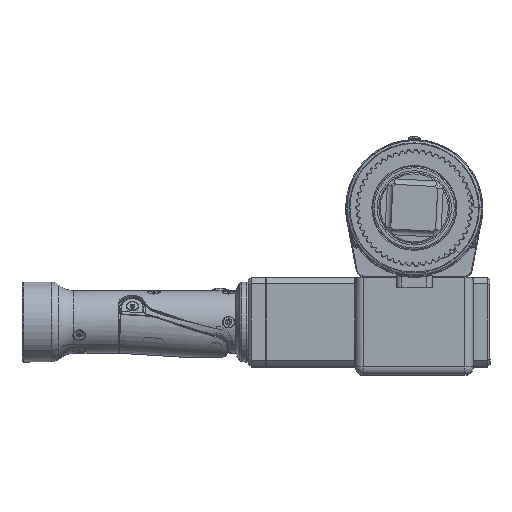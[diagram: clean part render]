
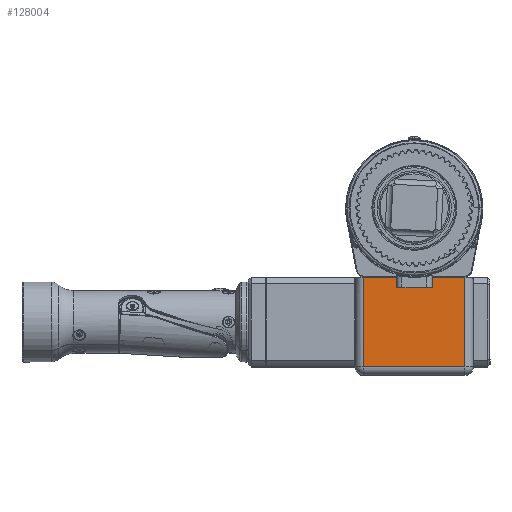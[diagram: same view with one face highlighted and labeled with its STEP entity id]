
A CAD part, top view. The second image highlights one B-rep face of the part: STEP entity #128004.
In plain terms, the highlighted planar face has unit normal (0, 0, 1).
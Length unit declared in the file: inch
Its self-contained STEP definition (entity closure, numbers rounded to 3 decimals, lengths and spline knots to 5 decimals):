
#1763 = CARTESIAN_POINT ( 'NONE',  ( -0.365, -1.77, 0.0005 ) ) ;
#5724 = EDGE_CURVE ( 'NONE', #33020, #95636, #72684, .T. ) ;
#6225 = AXIS2_PLACEMENT_3D ( 'NONE', #12774, #36941, #49779 ) ;
#6653 = DIRECTION ( 'NONE',  ( 0., -1., 0. ) ) ;
#9231 = EDGE_CURVE ( 'NONE', #60356, #130247, #146803, .T. ) ;
#9235 = VECTOR ( 'NONE', #138914, 39.37008 ) ;
#12774 = CARTESIAN_POINT ( 'NONE',  ( -1.3125, -1.53, 0.0005 ) ) ;
#13848 = DIRECTION ( 'NONE',  ( 0., 1., 0. ) ) ;
#14013 = EDGE_CURVE ( 'NONE', #30673, #130247, #40173, .T. ) ;
#14484 = VECTOR ( 'NONE', #107883, 39.37008 ) ;
#22359 = VECTOR ( 'NONE', #152930, 39.37008 ) ;
#23097 = EDGE_CURVE ( 'NONE', #85609, #95636, #127616, .T. ) ;
#25335 = ORIENTED_EDGE ( 'NONE', *, *, #77919, .T. ) ;
#27676 = EDGE_CURVE ( 'NONE', #156053, #150250, #55321, .T. ) ;
#27877 = AXIS2_PLACEMENT_3D ( 'NONE', #69137, #69939, #131775 ) ;
#30673 = VERTEX_POINT ( 'NONE', #1763 ) ;
#30779 = CARTESIAN_POINT ( 'NONE',  ( 1.125, -1.53, 0.0005 ) ) ;
#33020 = VERTEX_POINT ( 'NONE', #40202 ) ;
#35734 = CARTESIAN_POINT ( 'NONE',  ( 0.365, -1.77, 0.0005 ) ) ;
#36054 = CARTESIAN_POINT ( 'NONE',  ( 0.365, -1.76, 0.0005 ) ) ;
#36941 = DIRECTION ( 'NONE',  ( 0., 0., -1. ) ) ;
#38506 = EDGE_CURVE ( 'NONE', #60356, #85609, #103856, .T. ) ;
#40173 = LINE ( 'NONE', #123809, #103889 ) ;
#40202 = CARTESIAN_POINT ( 'NONE',  ( 1.125, -3.53, 0.0005 ) ) ;
#41195 = EDGE_CURVE ( 'NONE', #30673, #122259, #130635, .T. ) ;
#49779 = DIRECTION ( 'NONE',  ( -1., 0., 0. ) ) ;
#53612 = CARTESIAN_POINT ( 'NONE',  ( -1.125, -3.53, 0.0005 ) ) ;
#55321 = LINE ( 'NONE', #89898, #9235 ) ;
#55955 = EDGE_CURVE ( 'NONE', #114723, #122259, #65498, .T. ) ;
#58977 = CARTESIAN_POINT ( 'NONE',  ( 1.125, -3.53, 0.0005 ) ) ;
#60356 = VERTEX_POINT ( 'NONE', #150532 ) ;
#62812 = VECTOR ( 'NONE', #79887, 39.37008 ) ;
#65003 = CARTESIAN_POINT ( 'NONE',  ( 1.3125, -1.53, 0.0005 ) ) ;
#65498 = LINE ( 'NONE', #92734, #155373 ) ;
#66188 = CARTESIAN_POINT ( 'NONE',  ( 0.375, -1.53, 0.0005 ) ) ;
#69137 = CARTESIAN_POINT ( 'NONE',  ( -0.365, -1.76, 0.0005 ) ) ;
#69939 = DIRECTION ( 'NONE',  ( 0., 0., -1. ) ) ;
#70182 = CARTESIAN_POINT ( 'NONE',  ( 1.3125, -1.53, 0.0005 ) ) ;
#72684 = LINE ( 'NONE', #99885, #114807 ) ;
#74002 = ORIENTED_EDGE ( 'NONE', *, *, #14013, .F. ) ;
#77522 = AXIS2_PLACEMENT_3D ( 'NONE', #36054, #123620, #96350 ) ;
#77919 = EDGE_CURVE ( 'NONE', #150250, #33020, #131288, .T. ) ;
#79887 = DIRECTION ( 'NONE',  ( 1., 0., 0. ) ) ;
#85609 = VERTEX_POINT ( 'NONE', #134489 ) ;
#89898 = CARTESIAN_POINT ( 'NONE',  ( -1.125, -3.53, 0.0005 ) ) ;
#92110 = ORIENTED_EDGE ( 'NONE', *, *, #55955, .F. ) ;
#92734 = CARTESIAN_POINT ( 'NONE',  ( -0.375, -1.77, 0.0005 ) ) ;
#93517 = ORIENTED_EDGE ( 'NONE', *, *, #38506, .F. ) ;
#94258 = ORIENTED_EDGE ( 'NONE', *, *, #27676, .T. ) ;
#95636 = VERTEX_POINT ( 'NONE', #30779 ) ;
#96350 = DIRECTION ( 'NONE',  ( -1., 0., 0. ) ) ;
#99885 = CARTESIAN_POINT ( 'NONE',  ( 1.125, -1.56, 0.0005 ) ) ;
#102704 = EDGE_LOOP ( 'NONE', ( #74002, #157178, #92110, #147846, #94258, #25335, #132518, #105615, #93517, #130162 ) ) ;
#103856 = LINE ( 'NONE', #66188, #22359 ) ;
#103889 = VECTOR ( 'NONE', #151121, 39.37008 ) ;
#105615 = ORIENTED_EDGE ( 'NONE', *, *, #23097, .F. ) ;
#107883 = DIRECTION ( 'NONE',  ( 1., 0., 0. ) ) ;
#114723 = VERTEX_POINT ( 'NONE', #121787 ) ;
#114807 = VECTOR ( 'NONE', #13848, 39.37008 ) ;
#116462 = CARTESIAN_POINT ( 'NONE',  ( -1.125, -1.53, 0.0005 ) ) ;
#118042 = CARTESIAN_POINT ( 'NONE',  ( -0.375, -1.76, 0.0005 ) ) ;
#121787 = CARTESIAN_POINT ( 'NONE',  ( -0.375, -1.53, 0.0005 ) ) ;
#122127 = PLANE ( 'NONE',  #6225 ) ;
#122259 = VERTEX_POINT ( 'NONE', #118042 ) ;
#123620 = DIRECTION ( 'NONE',  ( 0., 0., -1. ) ) ;
#123809 = CARTESIAN_POINT ( 'NONE',  ( 0.375, -1.77, 0.0005 ) ) ;
#127474 = EDGE_CURVE ( 'NONE', #156053, #114723, #141690, .T. ) ;
#127616 = LINE ( 'NONE', #65003, #128834 ) ;
#128004 = ADVANCED_FACE ( 'NONE', ( #159139 ), #122127, .F. ) ;
#128834 = VECTOR ( 'NONE', #150987, 39.37008 ) ;
#130162 = ORIENTED_EDGE ( 'NONE', *, *, #9231, .T. ) ;
#130247 = VERTEX_POINT ( 'NONE', #35734 ) ;
#130635 = CIRCLE ( 'NONE', #27877, 0.01 ) ;
#131288 = LINE ( 'NONE', #58977, #14484 ) ;
#131775 = DIRECTION ( 'NONE',  ( -1., 0., 0. ) ) ;
#132518 = ORIENTED_EDGE ( 'NONE', *, *, #5724, .T. ) ;
#134489 = CARTESIAN_POINT ( 'NONE',  ( 0.375, -1.53, 0.0005 ) ) ;
#138914 = DIRECTION ( 'NONE',  ( 0., -1., 0. ) ) ;
#141690 = LINE ( 'NONE', #70182, #62812 ) ;
#146803 = CIRCLE ( 'NONE', #77522, 0.01 ) ;
#147846 = ORIENTED_EDGE ( 'NONE', *, *, #127474, .F. ) ;
#150250 = VERTEX_POINT ( 'NONE', #53612 ) ;
#150532 = CARTESIAN_POINT ( 'NONE',  ( 0.375, -1.76, 0.0005 ) ) ;
#150987 = DIRECTION ( 'NONE',  ( 1., 0., 0. ) ) ;
#151121 = DIRECTION ( 'NONE',  ( 1., 0., 0. ) ) ;
#152930 = DIRECTION ( 'NONE',  ( 0., 1., 0. ) ) ;
#155373 = VECTOR ( 'NONE', #6653, 39.37008 ) ;
#156053 = VERTEX_POINT ( 'NONE', #116462 ) ;
#157178 = ORIENTED_EDGE ( 'NONE', *, *, #41195, .T. ) ;
#159139 = FACE_OUTER_BOUND ( 'NONE', #102704, .T. ) ;
